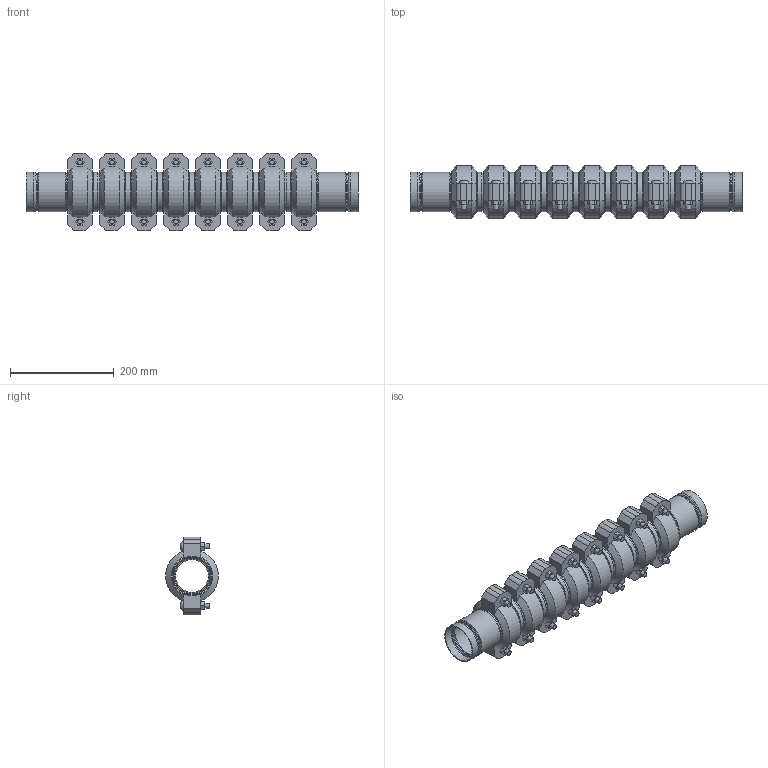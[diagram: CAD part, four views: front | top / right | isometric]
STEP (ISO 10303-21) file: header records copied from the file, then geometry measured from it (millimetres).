
FILE_DESCRIPTION(/* description */ ('VIC STRENGTHIN 100 EXPANSION JOINT 8 COUPLINGS EXPANDED STYLE E155 (ST1)','CAx-IF Rec.Pracs.---Representation and Presentation of Product Manufacturing Information (PMI)---4.0---2014-10-13'),/* implementation_level */ '2;1');
FILE_NAME(/* name */ 'C:\Users\Vjadhav\AppData\Roaming\Autodesk\ApplicationPlugins\Victaulic.Temp\A374\Victaulic_SS-StrengThin 100_Expansion Joint_Expanded_8 Couplings_Style E155 (ST1)_02.5 (76.1) (65).stp',/* time_stamp */ '2021-07-23T19:34:24+05:00',/* author */ ('kkamble'),/* organization */ ('Victaulic'),/* preprocessor_version */ 'ST-DEVELOPER v17.2',/* originating_system */ 'Autodesk Inventor 2019',/* authorisation */ '');
FILE_SCHEMA (('AP242_MANAGED_MODEL_BASED_3D_ENGINEERING_MIM_LF { 1 0 10303 442 1 1 4 }'));
Length unit declared in the file: inch
Products named in the file (4): E155-02.5 (76.1); E494G-02.5 (76.1); Nipple-02.5 (76.1); 075-02.5 (76.1)
Assembly tree (17 placements, depth 2):
  E155-02.5 (76.1)
    E494G-02.5 (76.1)  x2
    Nipple-02.5 (76.1)  x7
    075-02.5 (76.1)  x8
Bounding box: 639.83 x 101.25 x 149.86 mm (x, y, z)
Volume: 2376671.6 mm3; surface area: 670204.6 mm2
Topology: 17 solids, 33 shells, 608 faces, 1528 edges, 1070 vertices
Faces by surface type: plane 342, cylinder 182, cone 36, torus 32, bspline 16
Full cylindrical faces by diameter (mm): 9.525 x32, 11.43 x16, 62.713 x7, 67.158 x2, 69.063 x2, 69.85 x8, 70.358 x2, 72.263 x16, 73 x6, 76.2 x43
Entity records: 3848 total; most frequent: CARTESIAN_POINT 695, DIRECTION 679, ORIENTED_EDGE 556, AXIS2_PLACEMENT_3D 289, EDGE_CURVE 278, VERTEX_POINT 199, CIRCLE 167, EDGE_LOOP 127
